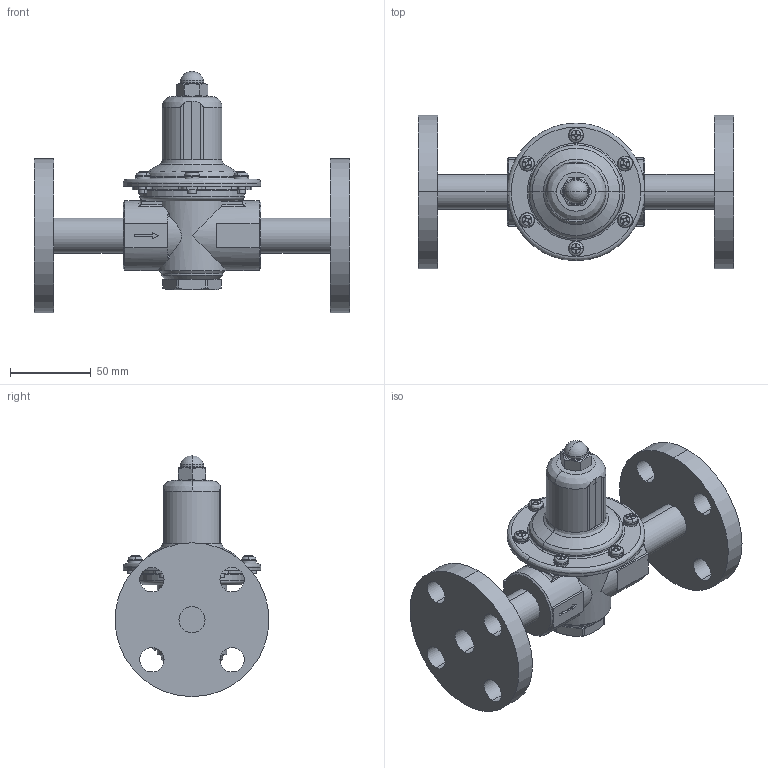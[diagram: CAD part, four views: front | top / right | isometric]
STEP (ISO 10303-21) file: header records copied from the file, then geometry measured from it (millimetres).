
FILE_DESCRIPTION( (''), '2;1');
FILE_NAME ('PC1276.10472.GD-43-10 (15A FF)_29419.stp','2026-01-15T14:25:09',(''),(''),'spGate 20.6.3 (****-****-****-****)','','');
FILE_SCHEMA (('AUTOMOTIVE_DESIGN'));
Length unit declared in the file: millimetre
Products named in the file (7): Assembly; ばねかばー; 袋ナット; 下部キャップ; なべこねじ(Ｍ5-10); スプリング座金; GD-41 15A
Assembly tree (16 placements, depth 2):
  Assembly
    ばねかばー
    袋ナット
    下部キャップ
    なべこねじ(Ｍ5-10)  x6
    スプリング座金  x6
    GD-41 15A
Bounding box: 195 x 95 x 149 mm (x, y, z)
Volume: 371096.6 mm3; surface area: 102195.2 mm2
Topology: 16 solids, 16 shells, 606 faces, 1532 edges, 977 vertices
Faces by surface type: plane 256, cylinder 220, bspline 114, sphere 16
Entity records: 24632 total; most frequent: CARTESIAN_POINT 5290, ORIENTED_EDGE 2256, DIRECTION 2058, COLOUR_RGB 1575, PRESENTATION_STYLE_ASSIGNMENT 1575, STYLED_ITEM 1575, EDGE_CURVE 1128, DRAUGHTING_PRE_DEFINED_CURVE_FONT 1128
